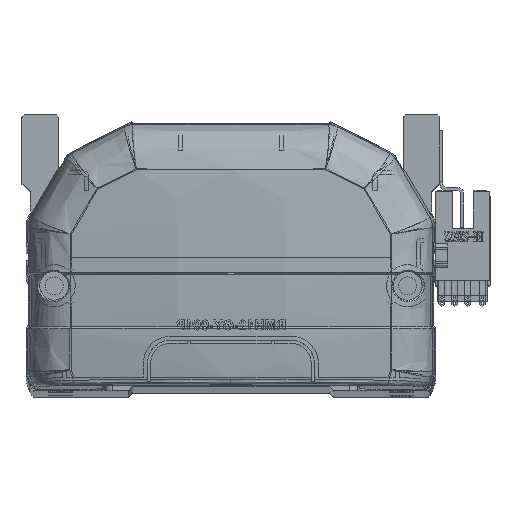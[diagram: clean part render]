
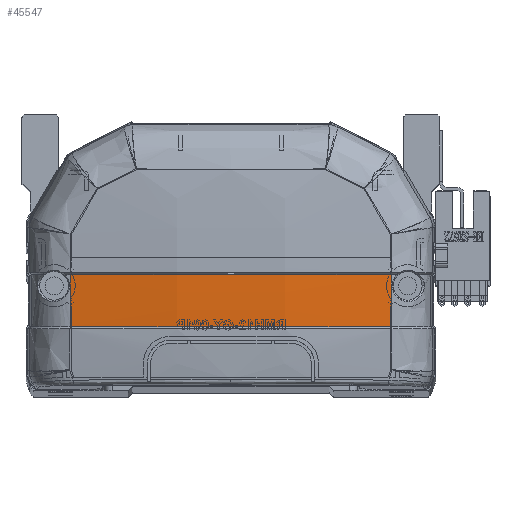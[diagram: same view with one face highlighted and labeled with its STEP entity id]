
A CAD part, top view. The second image highlights one B-rep face of the part: STEP entity #45547.
In plain terms, the highlighted free-form (B-spline) face has degree [3, 3] with [4, 4] control points.
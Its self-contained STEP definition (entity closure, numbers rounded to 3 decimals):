
#269 = CARTESIAN_POINT ( 'NONE',  ( 13.598, 24.342, -10.47 ) ) ;
#1039 = CARTESIAN_POINT ( 'NONE',  ( 13.375, 28.707, -9.468 ) ) ;
#5235 = VERTEX_POINT ( 'NONE', #52664 ) ;
#5294 = CARTESIAN_POINT ( 'NONE',  ( 13.598, 28.769, -10.535 ) ) ;
#7306 = CARTESIAN_POINT ( 'NONE',  ( 13.38, 15.83, -8.984 ) ) ;
#7508 = CARTESIAN_POINT ( 'NONE',  ( 39.985, 15.83, -5.879 ) ) ;
#9321 = CARTESIAN_POINT ( 'NONE',  ( 40.461, 20.111, -6.066 ) ) ;
#9767 = EDGE_CURVE ( 'NONE', #37915, #19297, #31319, .T. ) ;
#10134 = CARTESIAN_POINT ( 'NONE',  ( -40.461, 20.111, -6.066 ) ) ;
#10507 = CARTESIAN_POINT ( 'NONE',  ( -13.373, 28.707, -9.468 ) ) ;
#10987 = CARTESIAN_POINT ( 'NONE',  ( 39.966, 24.413, -6.306 ) ) ;
#12205 = CARTESIAN_POINT ( 'NONE',  ( 26.761, 15.83, -7.945 ) ) ;
#13991 = CARTESIAN_POINT ( 'NONE',  ( 40.461, 28.832, -6.296 ) ) ;
#14399 = CARTESIAN_POINT ( 'NONE',  ( -13.598, 15.499, -10.032 ) ) ;
#14546 = CARTESIAN_POINT ( 'NONE',  ( -39.963, 28.706, -6.372 ) ) ;
#15839 = CARTESIAN_POINT ( 'NONE',  ( -6.692, 15.83, -8.984 ) ) ;
#16436 = CARTESIAN_POINT ( 'NONE',  ( -33.365, 15.83, -6.848 ) ) ;
#16932 = CARTESIAN_POINT ( 'NONE',  ( -39.973, 20.118, -6.142 ) ) ;
#18052 = CARTESIAN_POINT ( 'NONE',  ( 40.461, 15.757, -5.8 ) ) ;
#18644 = CARTESIAN_POINT ( 'NONE',  ( -13.598, 19.918, -10.302 ) ) ;
#19297 = VERTEX_POINT ( 'NONE', #33368 ) ;
#19484 = CARTESIAN_POINT ( 'NONE',  ( 39.963, 28.706, -6.372 ) ) ;
#20172 = EDGE_CURVE ( 'NONE', #37915, #45678, #47499, .T. ) ;
#22204 = CARTESIAN_POINT ( 'NONE',  ( -39.966, 24.412, -6.306 ) ) ;
#23531 = CARTESIAN_POINT ( 'NONE',  ( -40.461, 24.47, -6.231 ) ) ;
#24248 =( BOUNDED_SURFACE ( )  B_SPLINE_SURFACE ( 3, 3, ( 
 ( #18052, #9321, #41696, #13991 ),
 ( #46334, #38049, #269, #5294 ),
 ( #14399, #18644, #56247, #32609 ),
 ( #51185, #10134, #23531, #55833 ) ),
 .UNSPECIFIED., .F., .F., .T. ) 
 B_SPLINE_SURFACE_WITH_KNOTS ( ( 4, 4 ),
 ( 4, 4 ),
 ( 0., 1. ),
 ( 0., 1. ),
 .UNSPECIFIED. ) 
 GEOMETRIC_REPRESENTATION_ITEM ( )  RATIONAL_B_SPLINE_SURFACE ( (
 ( 1., 1., 1., 1.),
 ( 0.992, 0.992, 0.992, 0.992),
 ( 0.992, 0.992, 0.992, 0.992),
 ( 1., 1., 1., 1.) ) ) 
 REPRESENTATION_ITEM ( '' )  SURFACE ( )  );
#24709 = EDGE_CURVE ( 'NONE', #5235, #19297, #47243, .T. ) ;
#25346 = ORIENTED_EDGE ( 'NONE', *, *, #24709, .T. ) ;
#27829 = CARTESIAN_POINT ( 'NONE',  ( 39.985, 15.83, -5.879 ) ) ;
#28239 = CARTESIAN_POINT ( 'NONE',  ( 39.973, 20.12, -6.142 ) ) ;
#28969 = ORIENTED_EDGE ( 'NONE', *, *, #9767, .F. ) ;
#31319 = B_SPLINE_CURVE_WITH_KNOTS ( 'NONE', 3,
 ( #7508, #12205, #7306, #15839, #53410, #58043, #34836, #16436, #57841, #39475 ),
 .UNSPECIFIED., .F., .F.,
 ( 4, 2, 2, 2, 4 ),
 ( 0., 0.04, 0.06, 0.07, 0.08 ),
 .UNSPECIFIED. ) ;
#32609 = CARTESIAN_POINT ( 'NONE',  ( -13.598, 28.769, -10.535 ) ) ;
#33360 = CARTESIAN_POINT ( 'NONE',  ( 26.749, 28.706, -8.432 ) ) ;
#33368 = CARTESIAN_POINT ( 'NONE',  ( -39.985, 15.83, -5.879 ) ) ;
#34836 = CARTESIAN_POINT ( 'NONE',  ( -26.721, 15.83, -7.624 ) ) ;
#37915 = VERTEX_POINT ( 'NONE', #54893 ) ;
#38049 = CARTESIAN_POINT ( 'NONE',  ( 13.598, 19.918, -10.302 ) ) ;
#39475 = CARTESIAN_POINT ( 'NONE',  ( -39.985, 15.83, -5.879 ) ) ;
#40427 = EDGE_CURVE ( 'NONE', #5235, #45678, #47263, .T. ) ;
#41696 = CARTESIAN_POINT ( 'NONE',  ( 40.461, 24.47, -6.231 ) ) ;
#43501 = EDGE_LOOP ( 'NONE', ( #46734, #56036, #25346, #28969 ) ) ;
#45547 = ADVANCED_FACE ( 'NONE', ( #45653 ), #24248, .F. ) ;
#45653 = FACE_OUTER_BOUND ( 'NONE', #43501, .T. ) ;
#45678 = VERTEX_POINT ( 'NONE', #52175 ) ;
#46334 = CARTESIAN_POINT ( 'NONE',  ( 13.598, 15.499, -10.032 ) ) ;
#46734 = ORIENTED_EDGE ( 'NONE', *, *, #20172, .T. ) ;
#47090 = CARTESIAN_POINT ( 'NONE',  ( 39.963, 28.706, -6.372 ) ) ;
#47243 = B_SPLINE_CURVE_WITH_KNOTS ( 'NONE', 3,
 ( #58355, #22204, #16932, #49253 ),
 .UNSPECIFIED., .F., .F.,
 ( 4, 4 ),
 ( 0., 1. ),
 .UNSPECIFIED. ) ;
#47263 = B_SPLINE_CURVE_WITH_KNOTS ( 'NONE', 3,
 ( #14546, #51945, #10507, #1039, #33360, #47090 ),
 .UNSPECIFIED., .F., .F.,
 ( 4, 2, 4 ),
 ( 0., 0.5, 1. ),
 .UNSPECIFIED. ) ;
#47499 = B_SPLINE_CURVE_WITH_KNOTS ( 'NONE', 3,
 ( #27829, #28239, #10987, #19484 ),
 .UNSPECIFIED., .F., .F.,
 ( 4, 4 ),
 ( 0., 1. ),
 .UNSPECIFIED. ) ;
#49253 = CARTESIAN_POINT ( 'NONE',  ( -39.985, 15.83, -5.879 ) ) ;
#51185 = CARTESIAN_POINT ( 'NONE',  ( -40.461, 15.757, -5.8 ) ) ;
#51945 = CARTESIAN_POINT ( 'NONE',  ( -26.748, 28.706, -8.432 ) ) ;
#52175 = CARTESIAN_POINT ( 'NONE',  ( 39.963, 28.706, -6.372 ) ) ;
#52664 = CARTESIAN_POINT ( 'NONE',  ( -39.963, 28.706, -6.372 ) ) ;
#53410 = CARTESIAN_POINT ( 'NONE',  ( -13.384, 15.83, -8.724 ) ) ;
#54893 = CARTESIAN_POINT ( 'NONE',  ( 39.985, 15.83, -5.879 ) ) ;
#55833 = CARTESIAN_POINT ( 'NONE',  ( -40.461, 28.832, -6.296 ) ) ;
#56036 = ORIENTED_EDGE ( 'NONE', *, *, #40427, .F. ) ;
#56247 = CARTESIAN_POINT ( 'NONE',  ( -13.598, 24.342, -10.47 ) ) ;
#57841 = CARTESIAN_POINT ( 'NONE',  ( -36.679, 15.83, -6.395 ) ) ;
#58043 = CARTESIAN_POINT ( 'NONE',  ( -23.389, 15.83, -7.947 ) ) ;
#58355 = CARTESIAN_POINT ( 'NONE',  ( -39.963, 28.706, -6.372 ) ) ;
